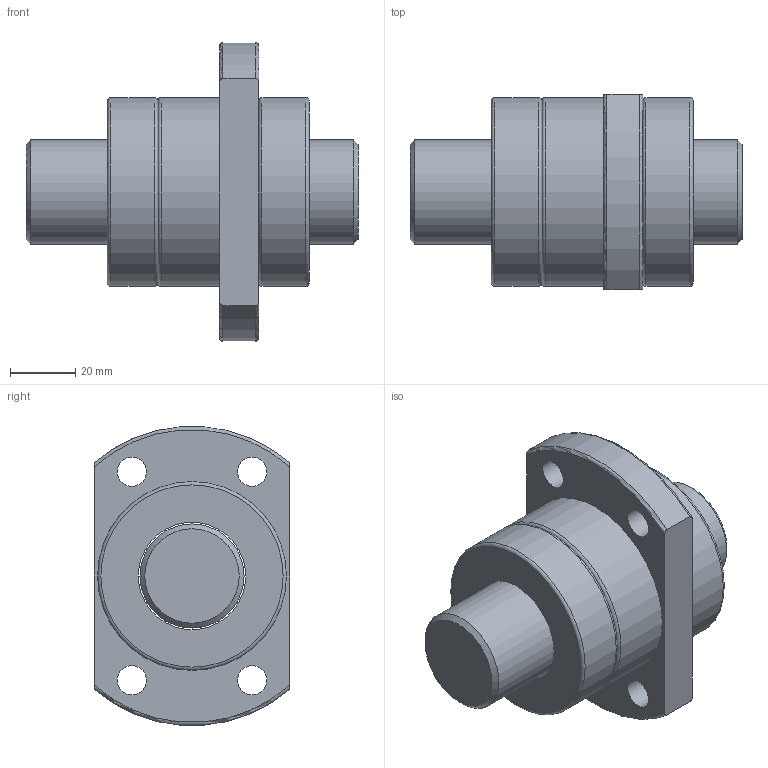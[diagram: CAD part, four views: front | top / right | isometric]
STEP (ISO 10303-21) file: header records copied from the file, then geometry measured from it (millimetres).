
FILE_DESCRIPTION(/* description */ (''),/* implementation_level */ '2;1');
FILE_NAME(/* name */ 'SFE3264',/* time_stamp */ '2007-10-26T11:58:10+08:00',/* author */ (''),/* organization */ (''),/* preprocessor_version */ 'ST-DEVELOPER v9',/* originating_system */ 'EDS PLM SOLUTIONS - UNIGRAPHICS NX 1.0',/* authorisation */ '');
FILE_SCHEMA (('CONFIG_CONTROL_DESIGN'));
Length unit declared in the file: millimetre
Products named in the file (1): FANNDA0400g6
Bounding box: 102 x 60 x 91.71 mm (x, y, z)
Volume: 218773 mm3; surface area: 46435.9 mm2
Topology: 4 solids, 4 shells, 35 faces, 75 edges, 49 vertices
Faces by surface type: cylinder 13, plane 11, torus 9, cone 2
Full cylindrical faces by diameter (mm): 9 x4, 32 x1, 33 x3, 58 x3
Entity records: 968 total; most frequent: CARTESIAN_POINT 174, DIRECTION 154, ORIENTED_EDGE 106, AXIS2_PLACEMENT_3D 73, EDGE_LOOP 68, EDGE_CURVE 53, FACE_BOUND 49, VERTEX_POINT 45
